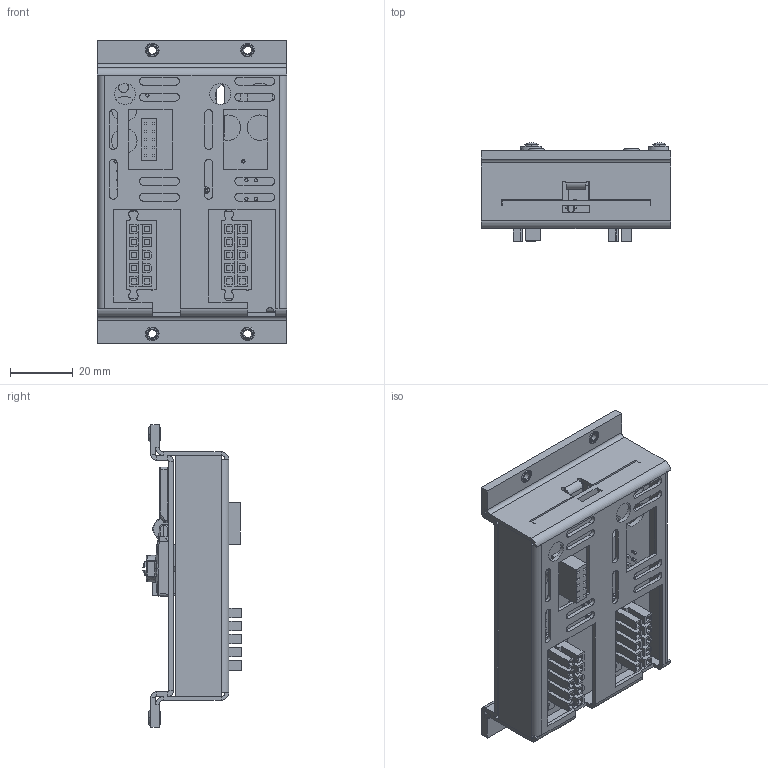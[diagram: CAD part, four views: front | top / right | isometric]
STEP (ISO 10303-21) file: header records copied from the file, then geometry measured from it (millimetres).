
FILE_DESCRIPTION((''),'2;1');
FILE_NAME('CU_USB-1359','2011-08-15T',('jjorden'),(''),'PRO/ENGINEER BY PARAMETRIC TECHNOLOGY CORPORATION, 2010230','PRO/ENGINEER BY PARAMETRIC TECHNOLOGY CORPORATION, 2010230','');
FILE_SCHEMA(('CONFIG_CONTROL_DESIGN'));
Products named in the file (1): CU_USB-1359
Bounding box: 60.66 x 31.53 x 96.77 mm (x, y, z)
Volume: 34633.9 mm3; surface area: 50370.6 mm2
Topology: 3 solids, 3 shells, 2454 faces, 6304 edges, 3966 vertices
Faces by surface type: plane 1492, cylinder 542, bspline 222, torus 96, cone 54, sphere 48
Entity records: 86436 total; most frequent: CARTESIAN_POINT 27700, ORIENTED_EDGE 12596, DIRECTION 11374, EDGE_CURVE 6298, VECTOR 4286, LINE 4286, VERTEX_POINT 3966, AXIS2_PLACEMENT_3D 3544
